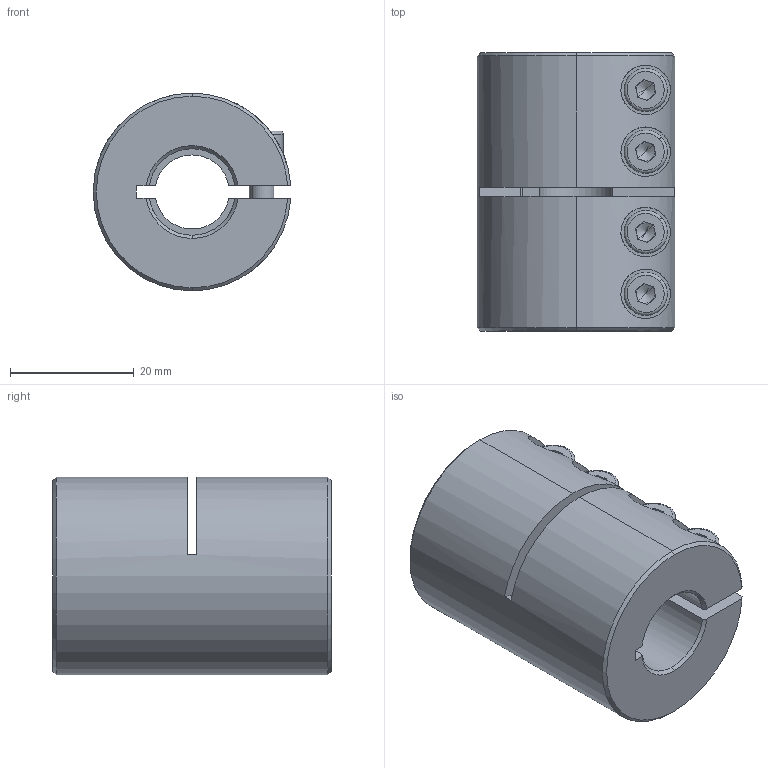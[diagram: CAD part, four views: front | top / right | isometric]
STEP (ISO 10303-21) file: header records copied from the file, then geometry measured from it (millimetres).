
FILE_DESCRIPTION (( 'STEP AP214' ), '1' );
FILE_NAME ('LL-B-D32L45-12-14½¨Ä£.STEP', '2022-07-21T07:11:15', ( '' ), ( '' ), 'SwSTEP 2.0', 'SolidWorks 2022', '' );
FILE_SCHEMA (( 'AUTOMOTIVE_DESIGN' ));
Length unit declared in the file: millimetre
Products named in the file (1): LL-B-D32L45-12-14膘耀
Bounding box: 31.97 x 45 x 32 mm (x, y, z)
Volume: 27977.3 mm3; surface area: 10794.6 mm2
Topology: 1 solids, 1 shells, 193 faces, 492 edges, 309 vertices
Faces by surface type: plane 88, cylinder 77, cone 20, torus 8
Entity records: 6357 total; most frequent: CARTESIAN_POINT 1583, DIRECTION 1037, ORIENTED_EDGE 968, EDGE_CURVE 484, AXIS2_PLACEMENT_3D 403, VERTEX_POINT 309, VECTOR 231, LINE 231
